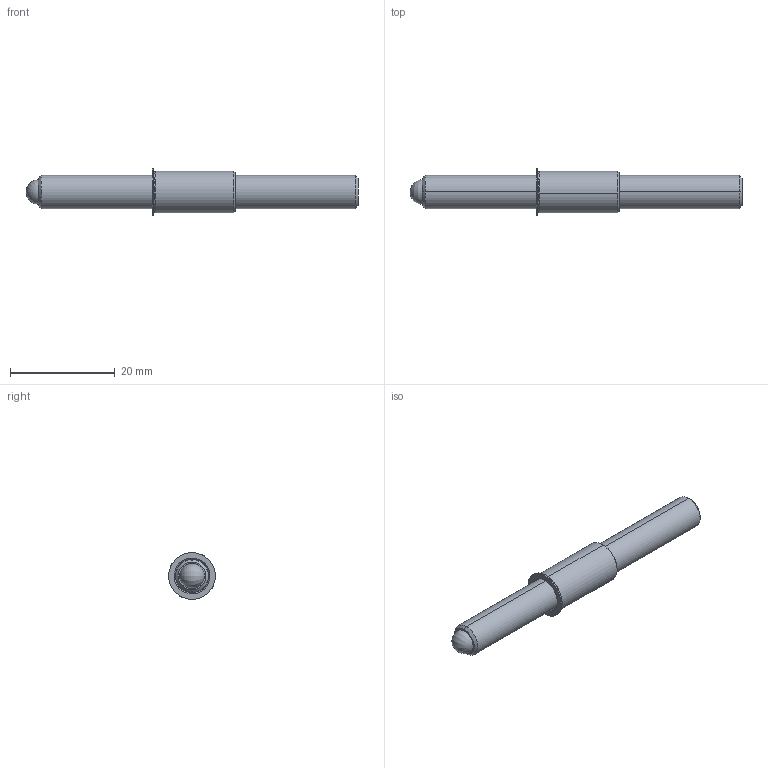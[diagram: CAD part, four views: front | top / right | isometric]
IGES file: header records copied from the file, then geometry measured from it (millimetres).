
Start section: SolidWorks IGES file using analytic representation for surfaces
Global section: file name: C:\Users\workpc\Desktop\KMA Solidworks\TSB250-80-2500_625-AA.IGS; native system: SolidWorks 2013; preprocessor: SolidWorks 2013; author: workpc; date: 130314.090152; units: inch
Bounding box: 63.49 x 8.93 x 8.93 mm (x, y, z)
Surface area: 1799.4 mm2 (no closed solid volume)
Topology: 0 solids, 0 shells, 33 faces, 406 edges, 402 vertices
Faces by surface type: revolution 22, bspline 11
